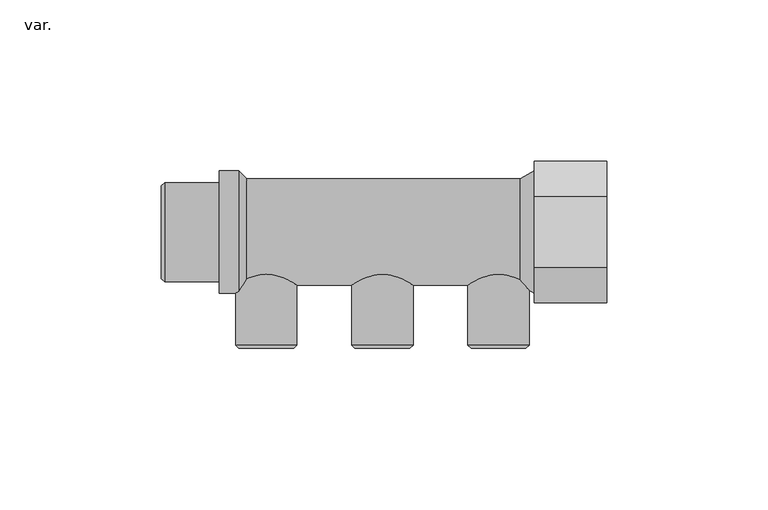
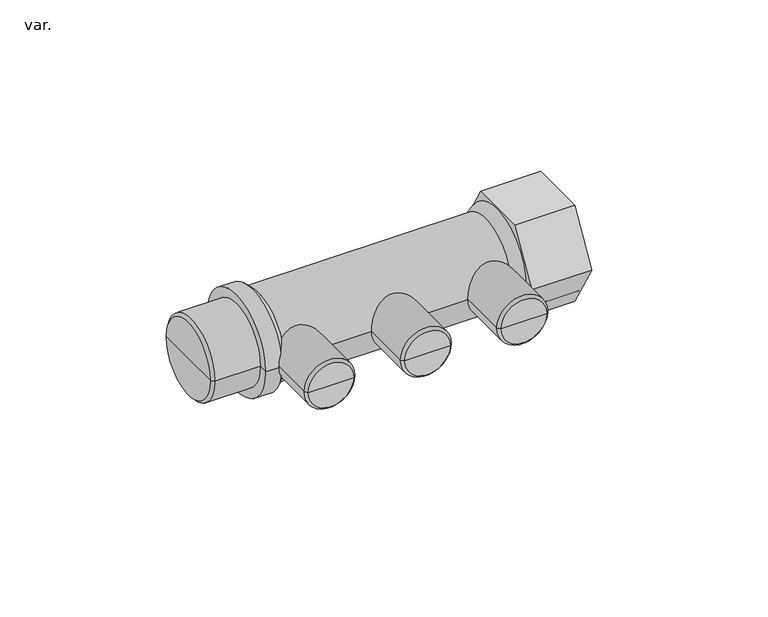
"""IFC4 building model written with IfcOpenShell, lengths in millimetres: pipe fitting geometry, AmancoWavin_ConexõesdeTubos_PEXMódulodeDistribuiçãoMetálico1x1_2 : var.."""

from ifc_helpers import new_model, si_unit, point, frame, origin, origin_2d, place, context, project, spatial, polyline, circle_curve, trimmed, segment, composite_curve, outline, extrude, source, transform, mapped, element, save
from ifc_brep_helpers import plane_surface, cylinder_surface, revolved_surface, advanced_brep


def var_0a26a710(model_context):
    return source(origin(), model_context, "Body", "SolidModel", [
        advanced_brep(
        [(96.0, -36.0, 0.0), (113.0, -36.0, 0.0), (104.5, -36.0, 0.0), (95.0, -35.0, 0.0), (114.0, -35.0, 0.0), (95.0, 0.0, 0.0), (114.0, 0.0, 0.0), (104.5, 0.0, 0.0)],
        [
            (0, 1, circle_curve(frame((104.5, -36.0, 0.0), z_axis=(0.0, -1.0, 0.0), x_axis=(1.0, 0.0, 0.0)), 8.5)),
            (1, 2),
            (2, 0),
            (1, 0, circle_curve(frame((104.5, -36.0, 0.0), z_axis=(0.0, -1.0, 0.0), x_axis=(1.0, 0.0, 0.0)), 8.5)),
            (3, 4, circle_curve(frame((104.5, -35.0, 0.0), z_axis=(0.0, -1.0, 0.0), x_axis=(1.0, 0.0, 0.0)), 9.5)),
            (4, 1),
            (0, 3),
            (4, 3, circle_curve(frame((104.5, -35.0, 0.0), z_axis=(0.0, -1.0, 0.0), x_axis=(1.0, 0.0, 0.0)), 9.5)),
            (5, 6, circle_curve(frame((104.5, 0.0, 0.0), z_axis=(0.0, -1.0, 0.0), x_axis=(1.0, 0.0, 0.0)), 9.5)),
            (6, 4),
            (3, 5),
            (6, 5, circle_curve(frame((104.5, 0.0, 0.0), z_axis=(0.0, -1.0, 0.0), x_axis=(1.0, 0.0, 0.0)), 9.5)),
            (7, 6),
            (5, 7),
        ],
        [
            plane_surface(frame((104.5, -36.0, 0.0), z_axis=(0.0, -1.0, 0.0), x_axis=(1.0, 0.0, 0.0))),
            revolved_surface(polyline([(113.0, -36.0, 0.0), (114.0, -35.0, 0.0)]), (104.5, -4.0, 0.0), (0.0, 1.0, 0.0)),
            cylinder_surface(frame((104.5, -4.0, 0.0), z_axis=(0.0, 1.0, 0.0), x_axis=(1.0, 0.0, 0.0)), 9.5),
            plane_surface(frame((104.5, 0.0, 0.0), z_axis=(0.0, 1.0, 0.0), x_axis=(1.0, 0.0, 0.0))),
        ],
        [
            (0, [[1, 2, 3]]),
            (0, [[4, -3, -2]]),
            (1, [[5, 6, -1, 7]]),
            (1, [[8, -7, -4, -6]]),
            (2, [[9, 10, -5, 11]]),
            (2, [[12, -11, -8, -10]]),
            (3, [[13, -9, 14]]),
            (3, [[-14, -12, -13]]),
        ],
    ),
        advanced_brep(
        [(60.0, -36.0, 0.0), (77.0, -36.0, 0.0), (68.5, -36.0, 0.0), (59.0, -35.0, 0.0), (78.0, -35.0, 0.0), (59.0, 0.0, 0.0), (78.0, 0.0, 0.0), (68.5, 0.0, 0.0)],
        [
            (0, 1, circle_curve(frame((68.5, -36.0, 0.0), z_axis=(0.0, -1.0, 0.0), x_axis=(1.0, 0.0, 0.0)), 8.5)),
            (1, 2),
            (2, 0),
            (1, 0, circle_curve(frame((68.5, -36.0, 0.0), z_axis=(0.0, -1.0, 0.0), x_axis=(1.0, 0.0, 0.0)), 8.5)),
            (3, 4, circle_curve(frame((68.5, -35.0, 0.0), z_axis=(0.0, -1.0, 0.0), x_axis=(1.0, 0.0, 0.0)), 9.5)),
            (4, 1),
            (0, 3),
            (4, 3, circle_curve(frame((68.5, -35.0, 0.0), z_axis=(0.0, -1.0, 0.0), x_axis=(1.0, 0.0, 0.0)), 9.5)),
            (5, 6, circle_curve(frame((68.5, 0.0, 0.0), z_axis=(0.0, -1.0, 0.0), x_axis=(1.0, 0.0, 0.0)), 9.5)),
            (6, 4),
            (3, 5),
            (6, 5, circle_curve(frame((68.5, 0.0, 0.0), z_axis=(0.0, -1.0, 0.0), x_axis=(1.0, 0.0, 0.0)), 9.5)),
            (7, 6),
            (5, 7),
        ],
        [
            plane_surface(frame((68.5, -36.0, 0.0), z_axis=(0.0, -1.0, 0.0), x_axis=(1.0, 0.0, 0.0))),
            revolved_surface(polyline([(77.0, -36.0, 0.0), (78.0, -35.0, 0.0)]), (68.5, -4.0, 0.0), (0.0, 1.0, 0.0)),
            cylinder_surface(frame((68.5, -4.0, 0.0), z_axis=(0.0, 1.0, 0.0), x_axis=(1.0, 0.0, 0.0)), 9.5),
            plane_surface(frame((68.5, 0.0, 0.0), z_axis=(0.0, 1.0, 0.0), x_axis=(1.0, 0.0, 0.0))),
        ],
        [
            (0, [[1, 2, 3]]),
            (0, [[4, -3, -2]]),
            (1, [[5, 6, -1, 7]]),
            (1, [[8, -7, -4, -6]]),
            (2, [[9, 10, -5, 11]]),
            (2, [[12, -11, -8, -10]]),
            (3, [[13, -9, 14]]),
            (3, [[-14, -12, -13]]),
        ],
    ),
        advanced_brep(
        [(24.0, -36.0, 0.0), (41.0, -36.0, 0.0), (32.5, -36.0, 0.0), (23.0, -35.0, 0.0), (42.0, -35.0, 0.0), (23.0, 0.0, 0.0), (42.0, 0.0, 0.0), (32.5, 0.0, 0.0)],
        [
            (0, 1, circle_curve(frame((32.5, -36.0, 0.0), z_axis=(0.0, -1.0, 0.0), x_axis=(1.0, 0.0, 0.0)), 8.5)),
            (1, 2),
            (2, 0),
            (1, 0, circle_curve(frame((32.5, -36.0, 0.0), z_axis=(0.0, -1.0, 0.0), x_axis=(1.0, 0.0, 0.0)), 8.5)),
            (3, 4, circle_curve(frame((32.5, -35.0, 0.0), z_axis=(0.0, -1.0, 0.0), x_axis=(1.0, 0.0, 0.0)), 9.5)),
            (4, 1),
            (0, 3),
            (4, 3, circle_curve(frame((32.5, -35.0, 0.0), z_axis=(0.0, -1.0, 0.0), x_axis=(1.0, 0.0, 0.0)), 9.5)),
            (5, 6, circle_curve(frame((32.5, 0.0, 0.0), z_axis=(0.0, -1.0, 0.0), x_axis=(1.0, 0.0, 0.0)), 9.5)),
            (6, 4),
            (3, 5),
            (6, 5, circle_curve(frame((32.5, 0.0, 0.0), z_axis=(0.0, -1.0, 0.0), x_axis=(1.0, 0.0, 0.0)), 9.5)),
            (7, 6),
            (5, 7),
        ],
        [
            plane_surface(frame((32.5, -36.0, 0.0), z_axis=(0.0, -1.0, 0.0), x_axis=(1.0, 0.0, 0.0))),
            revolved_surface(polyline([(41.0, -36.0, 0.0), (42.0, -35.0, 0.0)]), (32.5, -4.0, 0.0), (0.0, 1.0, 0.0)),
            cylinder_surface(frame((32.5, -4.0, 0.0), z_axis=(0.0, 1.0, 0.0), x_axis=(1.0, 0.0, 0.0)), 9.5),
            plane_surface(frame((32.5, 0.0, 0.0), z_axis=(0.0, 1.0, 0.0), x_axis=(1.0, 0.0, 0.0))),
        ],
        [
            (0, [[1, 2, 3]]),
            (0, [[4, -3, -2]]),
            (1, [[5, 6, -1, 7]]),
            (1, [[8, -7, -4, -6]]),
            (2, [[9, 10, -5, 11]]),
            (2, [[12, -11, -8, -10]]),
            (3, [[13, -9, 14]]),
            (3, [[-14, -12, -13]]),
        ],
    ),
        extrude(outline(polyline([(21.9393102, 0.0), (10.9696551, -19.0), (-10.9696551, -19.0), (-21.9393102, 0.0), (-10.9696551, 19.0), (10.9696551, 19.0), (21.9393102, 0.0)]), holes=[composite_curve([segment(trimmed(circle_curve(origin_2d(), 15.375), [point((15.375, 0.0))], [point((-15.375, 0.0))], True, "CARTESIAN"), True, "CONTINUOUS"), segment(trimmed(circle_curve(origin_2d(), 15.375), [point((-15.375, 0.0))], [point((15.375, 0.0))], True, "CARTESIAN"), True, "CONTINUOUS")], self_intersect=False)]), frame((115.5, 0.0, 0.0), z_axis=(1.0, 0.0, 0.0), x_axis=(0.0, 1.0, 0.0)), (0.0, 0.0, 1.0), 22.5),
        advanced_brep(
        [(0.0, -14.375, 0.0), (0.0, 14.375, 0.0), (1.0, 15.375, 0.0), (1.0, -15.375, 0.0), (0.0, 0.0, 0.0), (18.0, 15.375, 0.0), (18.0, -15.375, 0.0), (120.0, -15.375, 0.0), (120.0, 15.375, 0.0), (120.0, 0.0, 0.0), (138.0, -15.375, 0.0), (138.0, 15.375, 0.0), (138.0, -19.0, 0.0), (138.0, 19.0, 0.0), (115.5, -19.0, 0.0), (115.5, 19.0, 0.0), (111.169873, -16.5, 0.0), (111.169873, 16.5, 0.0), (18.0, -19.0, 0.0), (18.0, 19.0, 0.0), (24.0, 19.0, 0.0), (24.0, -19.0, 0.0), (26.5, -16.5, 0.0), (26.5, 16.5, 0.0)],
        [
            (0, 1, circle_curve(frame((0.0, 0.0, 0.0), z_axis=(1.0, 0.0, 0.0), x_axis=(0.0, 1.0, 0.0)), 14.375)),
            (1, 2),
            (2, 3, circle_curve(frame((1.0, 0.0, 0.0), z_axis=(-1.0, 0.0, 0.0), x_axis=(0.0, 1.0, 0.0)), 15.375)),
            (3, 0),
            (1, 0, circle_curve(frame((0.0, 0.0, 0.0), z_axis=(1.0, 0.0, 0.0), x_axis=(0.0, 1.0, 0.0)), 14.375)),
            (3, 2, circle_curve(frame((1.0, 0.0, 0.0), z_axis=(-1.0, 0.0, 0.0), x_axis=(0.0, 1.0, 0.0)), 15.375)),
            (4, 1),
            (0, 4),
            (2, 5),
            (5, 6, circle_curve(frame((18.0, 0.0, 0.0), z_axis=(-1.0, 0.0, 0.0), x_axis=(0.0, 1.0, 0.0)), 15.375)),
            (6, 3),
            (6, 5, circle_curve(frame((18.0, 0.0, 0.0), z_axis=(-1.0, 0.0, 0.0), x_axis=(0.0, 1.0, 0.0)), 15.375)),
            (7, 8, circle_curve(frame((120.0, 0.0, 0.0), z_axis=(1.0, 0.0, 0.0), x_axis=(0.0, 1.0, 0.0)), 15.375)),
            (8, 9),
            (9, 7),
            (8, 7, circle_curve(frame((120.0, 0.0, 0.0), z_axis=(1.0, 0.0, 0.0), x_axis=(0.0, 1.0, 0.0)), 15.375)),
            (10, 11, circle_curve(frame((138.0, 0.0, 0.0), z_axis=(1.0, 0.0, 0.0), x_axis=(0.0, 1.0, 0.0)), 15.375)),
            (11, 8),
            (7, 10),
            (11, 10, circle_curve(frame((138.0, 0.0, 0.0), z_axis=(1.0, 0.0, 0.0), x_axis=(0.0, 1.0, 0.0)), 15.375)),
            (12, 13, circle_curve(frame((138.0, 0.0, 0.0), z_axis=(1.0, 0.0, 0.0), x_axis=(0.0, 1.0, 0.0)), 19.0)),
            (13, 11),
            (10, 12),
            (13, 12, circle_curve(frame((138.0, 0.0, 0.0), z_axis=(1.0, 0.0, 0.0), x_axis=(0.0, 1.0, 0.0)), 19.0)),
            (14, 15, circle_curve(frame((115.5, 0.0, 0.0), z_axis=(1.0, 0.0, 0.0), x_axis=(0.0, 1.0, 0.0)), 19.0)),
            (15, 13),
            (12, 14),
            (15, 14, circle_curve(frame((115.5, 0.0, 0.0), z_axis=(1.0, 0.0, 0.0), x_axis=(0.0, 1.0, 0.0)), 19.0)),
            (16, 17, circle_curve(frame((111.169873, 0.0, 0.0), z_axis=(1.0, 0.0, 0.0), x_axis=(0.0, 1.0, 0.0)), 16.5)),
            (17, 15),
            (14, 16),
            (17, 16, circle_curve(frame((111.169873, 0.0, 0.0), z_axis=(1.0, 0.0, 0.0), x_axis=(0.0, 1.0, 0.0)), 16.5)),
            (18, 19, circle_curve(frame((18.0, 0.0, 0.0), z_axis=(1.0, 0.0, 0.0), x_axis=(0.0, 1.0, 0.0)), 19.0)),
            (19, 20),
            (20, 21, circle_curve(frame((24.0, 0.0, 0.0), z_axis=(-1.0, 0.0, 0.0), x_axis=(0.0, 1.0, 0.0)), 19.0)),
            (21, 18),
            (19, 18, circle_curve(frame((18.0, 0.0, 0.0), z_axis=(1.0, 0.0, 0.0), x_axis=(0.0, 1.0, 0.0)), 19.0)),
            (21, 20, circle_curve(frame((24.0, 0.0, 0.0), z_axis=(-1.0, 0.0, 0.0), x_axis=(0.0, 1.0, 0.0)), 19.0)),
            (5, 19),
            (18, 6),
            (22, 23, circle_curve(frame((26.5, 0.0, 0.0), z_axis=(1.0, 0.0, 0.0), x_axis=(0.0, 1.0, 0.0)), 16.5)),
            (23, 17),
            (16, 22),
            (23, 22, circle_curve(frame((26.5, 0.0, 0.0), z_axis=(1.0, 0.0, 0.0), x_axis=(0.0, 1.0, 0.0)), 16.5)),
            (20, 23),
            (22, 21),
        ],
        [
            revolved_surface(polyline([(1.0, 15.375, 0.0), (0.0, 14.375, 0.0)]), (-2001.7466803, 0.0, 0.0), (-1.0, 0.0, 0.0)),
            plane_surface(frame((0.0, 0.0, 0.0), z_axis=(-1.0, 0.0, 0.0), x_axis=(0.0, 1.0, 0.0))),
            cylinder_surface(frame((-2001.7466803, 0.0, 0.0), z_axis=(-1.0, 0.0, 0.0), x_axis=(0.0, 1.0, 0.0)), 15.375),
            plane_surface(frame((120.0, 0.0, 0.0), z_axis=(1.0, 0.0, 0.0), x_axis=(0.0, 1.0, 0.0))),
            revolved_surface(polyline([(119.99999999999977, 15.375, 0.0), (137.99999999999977, 15.375, 0.0)]), (-2001.7466803, 0.0, 0.0), (-1.0, 0.0, 0.0)),
            plane_surface(frame((138.0, 0.0, 0.0), z_axis=(1.0, 0.0, 0.0), x_axis=(0.0, 1.0, 0.0))),
            cylinder_surface(frame((-2001.7466803, 0.0, 0.0), z_axis=(-1.0, 0.0, 0.0), x_axis=(0.0, 1.0, 0.0)), 19.0),
            revolved_surface(polyline([(115.5, 19.0, 0.0), (111.169873, 16.5, 0.0)]), (-2001.7466803, 0.0, 0.0), (-1.0, 0.0, 0.0)),
            plane_surface(frame((18.0, 0.0, 0.0), z_axis=(-1.0, 0.0, 0.0), x_axis=(0.0, 1.0, 0.0))),
            cylinder_surface(frame((-2001.7466803, 0.0, 0.0), z_axis=(-1.0, 0.0, 0.0), x_axis=(0.0, 1.0, 0.0)), 16.5),
            revolved_surface(polyline([(26.5, 16.5, 0.0), (24.0, 19.0, 0.0)]), (-2001.7466803, 0.0, 0.0), (-1.0, 0.0, 0.0)),
        ],
        [
            (0, [[1, 2, 3, 4]]),
            (0, [[5, -4, 6, -2]]),
            (1, [[7, -1, 8]]),
            (1, [[-8, -5, -7]]),
            (2, [[-3, 9, 10, 11]]),
            (2, [[-6, -11, 12, -9]]),
            (3, [[13, 14, 15]]),
            (3, [[16, -15, -14]]),
            (4, [[17, 18, -13, 19]]),
            (4, [[20, -19, -16, -18]]),
            (5, [[21, 22, -17, 23]]),
            (5, [[24, -23, -20, -22]]),
            (6, [[25, 26, -21, 27]]),
            (6, [[28, -27, -24, -26]]),
            (7, [[29, 30, -25, 31]]),
            (7, [[32, -31, -28, -30]]),
            (6, [[33, 34, 35, 36]]),
            (6, [[37, -36, 38, -34]]),
            (8, [[-10, 39, -33, 40]]),
            (8, [[-12, -40, -37, -39]]),
            (9, [[41, 42, -29, 43]]),
            (9, [[44, -43, -32, -42]]),
            (10, [[-35, 45, -41, 46]]),
            (10, [[-38, -46, -44, -45]]),
        ],
    ),
    ])


if __name__ == "__main__":
    model = new_model("IFC4")
    model_context = context("Model", 3, world=origin())
    ifc_project = project(units=[si_unit("LENGTHUNIT", "METRE", prefix="MILLI")], contexts=[model_context])
    site = spatial("IfcSite", under=ifc_project)
    building = spatial("IfcBuilding", under=site)
    placement = place(None, origin())
    var_shape = var_0a26a710(model_context)
    element("IfcPipeFitting", 1, ObjectType="AmancoWavin_ConexõesdeTubos_PEXMódulodeDistribuiçãoMetálico1x1_2 : var.", at=placement, inside=building, context=model_context, shape_type="MappedRepresentation", body=[
        mapped(var_shape, transform((0.0, 0.0, 0.0), x_axis=(1.0, 0.0, 0.0), y_axis=(0.0, 1.0, 0.0), z_axis=(0.0, 0.0, 1.0))),
    ])
    save(model, "model.ifc")
